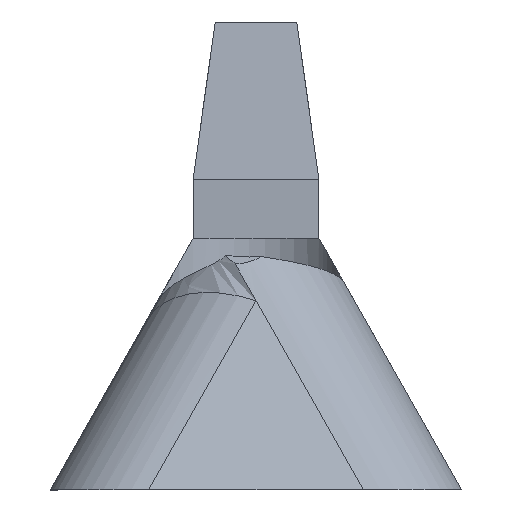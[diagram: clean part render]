
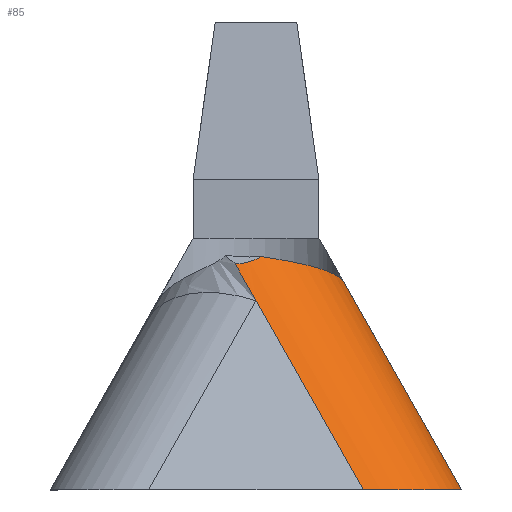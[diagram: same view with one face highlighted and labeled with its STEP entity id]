
A CAD part, left-side view. The second image highlights one B-rep face of the part: STEP entity #85.
In plain terms, the highlighted cylindrical face has radius 2 mm (diameter 4 mm), a partial arc.
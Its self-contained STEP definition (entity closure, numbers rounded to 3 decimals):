
#85=ADVANCED_FACE('',(#918),#920,.T.);
#918=FACE_BOUND('',#919,.T.);
#919=EDGE_LOOP('',(#1632,#1633,#1634,#1635,#1636,#1637));
#920=CYLINDRICAL_SURFACE('',#921,2.);
#921=AXIS2_PLACEMENT_3D('',#922,#923,#924);
#922=CARTESIAN_POINT('',(-13.633,-5.845,-6.311));
#923=DIRECTION('',(0.598,0.395,0.697));
#924=DIRECTION('',(-0.759,0.,0.651));
#1632=ORIENTED_EDGE('',*,*,#2078,.T.);
#1633=ORIENTED_EDGE('',*,*,#2050,.F.);
#1634=ORIENTED_EDGE('',*,*,#2075,.T.);
#1635=ORIENTED_EDGE('',*,*,#2079,.F.);
#1636=ORIENTED_EDGE('',*,*,#2080,.F.);
#1637=ORIENTED_EDGE('',*,*,#2081,.T.);
#2050=EDGE_CURVE('',#2280,#2267,#2282,.F.);
#2075=EDGE_CURVE('',#2280,#2329,#2331,.F.);
#2078=EDGE_CURVE('',#2335,#2267,#2336,.T.);
#2079=EDGE_CURVE('',#2337,#2329,#2338,.F.);
#2080=EDGE_CURVE('',#2339,#2337,#2340,.F.);
#2081=EDGE_CURVE('',#2339,#2335,#2341,.F.);
#2267=VERTEX_POINT('',#2624);
#2280=VERTEX_POINT('',#2650);
#2282=LINE('',#2655,#2656);
#2329=VERTEX_POINT('',#2802);
#2331=B_SPLINE_CURVE_WITH_KNOTS('',3,
(#2814,#2815,#2816,#2817,#2818,#2819,#2820,#2821,#2822,#2823,#2824,#2825,#2826,#2827,
#2828,#2829,#2830,#2831,#2832),
.UNSPECIFIED.,.F.,.F.,
(4,1,1,1,1,1,1,1,1,1,1,1,1,1,1,1,4),
(0.,0.066,0.134,0.212,0.306,0.401,
0.487,0.572,0.666,0.759,0.833,
0.882,0.917,0.943,0.967,0.987,
1.),
.UNSPECIFIED.);
#2335=VERTEX_POINT('',#2842);
#2336=(BOUNDED_CURVE()B_SPLINE_CURVE(3,
(#2843,#2844,#2845,#2846),
.UNSPECIFIED.,.F.,.F.)B_SPLINE_CURVE_WITH_KNOTS((4,4),
(0.,1.),
.UNSPECIFIED.)CURVE()GEOMETRIC_REPRESENTATION_ITEM()RATIONAL_B_SPLINE_CURVE((1.,
0.875,0.875,1.))REPRESENTATION_ITEM(''));
#2337=VERTEX_POINT('',#2847);
#2338=B_SPLINE_CURVE_WITH_KNOTS('',3,
(#2848,#2849,#2850,#2851,#2852,#2853,#2854,#2855,#2856,#2857,#2858,#2859,#2860,#2861,
#2862,#2863),
.UNSPECIFIED.,.F.,.F.,
(4,1,1,1,1,1,1,1,1,1,1,1,1,4),
(0.,0.06,0.124,0.192,0.265,0.348,
0.442,0.536,0.627,0.715,0.808,
0.888,0.955,1.),
.UNSPECIFIED.);
#2339=VERTEX_POINT('',#2864);
#2340=LINE('',#2865,#2866);
#2341=LINE('',#2868,#2869);
#2624=CARTESIAN_POINT('',(-5.591,-2.268,4.057));
#2650=CARTESIAN_POINT('',(-2.74,-0.382,7.383));
#2655=CARTESIAN_POINT('',(-5.591,-2.268,4.057));
#2656=VECTOR('',#2657,1.);
#2657=DIRECTION('',(0.598,0.395,0.697));
#2802=CARTESIAN_POINT('',(-4.124,0.912,7.771));
#2814=CARTESIAN_POINT('',(-4.124,0.912,7.771));
#2815=CARTESIAN_POINT('',(-4.118,0.867,7.763));
#2816=CARTESIAN_POINT('',(-4.102,0.777,7.748));
#2817=CARTESIAN_POINT('',(-4.063,0.636,7.724));
#2818=CARTESIAN_POINT('',(-4.002,0.483,7.696));
#2819=CARTESIAN_POINT('',(-3.916,0.32,7.665));
#2820=CARTESIAN_POINT('',(-3.806,0.167,7.63));
#2821=CARTESIAN_POINT('',(-3.683,0.033,7.593));
#2822=CARTESIAN_POINT('',(-3.545,-0.085,7.555));
#2823=CARTESIAN_POINT('',(-3.391,-0.188,7.515));
#2824=CARTESIAN_POINT('',(-3.233,-0.266,7.476));
#2825=CARTESIAN_POINT('',(-3.094,-0.317,7.445));
#2826=CARTESIAN_POINT('',(-2.99,-0.345,7.423));
#2827=CARTESIAN_POINT('',(-2.915,-0.36,7.41));
#2828=CARTESIAN_POINT('',(-2.858,-0.37,7.4));
#2829=CARTESIAN_POINT('',(-2.81,-0.376,7.393));
#2830=CARTESIAN_POINT('',(-2.771,-0.38,7.387));
#2831=CARTESIAN_POINT('',(-2.749,-0.382,7.384));
#2832=CARTESIAN_POINT('',(-2.74,-0.382,7.383));
#2842=CARTESIAN_POINT('',(-7.38,-0.706,4.057));
#2843=CARTESIAN_POINT('',(-7.38,-0.706,4.057));
#2844=CARTESIAN_POINT('',(-7.38,-1.673,4.057));
#2845=CARTESIAN_POINT('',(-6.698,-2.268,4.057));
#2846=CARTESIAN_POINT('',(-5.591,-2.268,4.057));
#2847=CARTESIAN_POINT('',(-4.296,1.332,7.654));
#2848=CARTESIAN_POINT('',(-4.124,0.912,7.771));
#2849=CARTESIAN_POINT('',(-4.13,0.919,7.767));
#2850=CARTESIAN_POINT('',(-4.142,0.933,7.76));
#2851=CARTESIAN_POINT('',(-4.16,0.956,7.749));
#2852=CARTESIAN_POINT('',(-4.178,0.981,7.737));
#2853=CARTESIAN_POINT('',(-4.197,1.009,7.725));
#2854=CARTESIAN_POINT('',(-4.217,1.041,7.711));
#2855=CARTESIAN_POINT('',(-4.236,1.077,7.698));
#2856=CARTESIAN_POINT('',(-4.254,1.116,7.685));
#2857=CARTESIAN_POINT('',(-4.269,1.156,7.674));
#2858=CARTESIAN_POINT('',(-4.281,1.197,7.666));
#2859=CARTESIAN_POINT('',(-4.289,1.238,7.659));
#2860=CARTESIAN_POINT('',(-4.294,1.276,7.656));
#2861=CARTESIAN_POINT('',(-4.296,1.306,7.654));
#2862=CARTESIAN_POINT('',(-4.296,1.325,7.654));
#2863=CARTESIAN_POINT('',(-4.296,1.332,7.654));
#2864=CARTESIAN_POINT('',(-4.799,1.,7.068));
#2865=CARTESIAN_POINT('',(-4.296,1.332,7.654));
#2866=VECTOR('',#2867,1.);
#2867=DIRECTION('',(-0.598,-0.395,-0.697));
#2868=CARTESIAN_POINT('',(-7.38,-0.706,4.057));
#2869=VECTOR('',#2870,1.);
#2870=DIRECTION('',(0.598,0.395,0.697));
